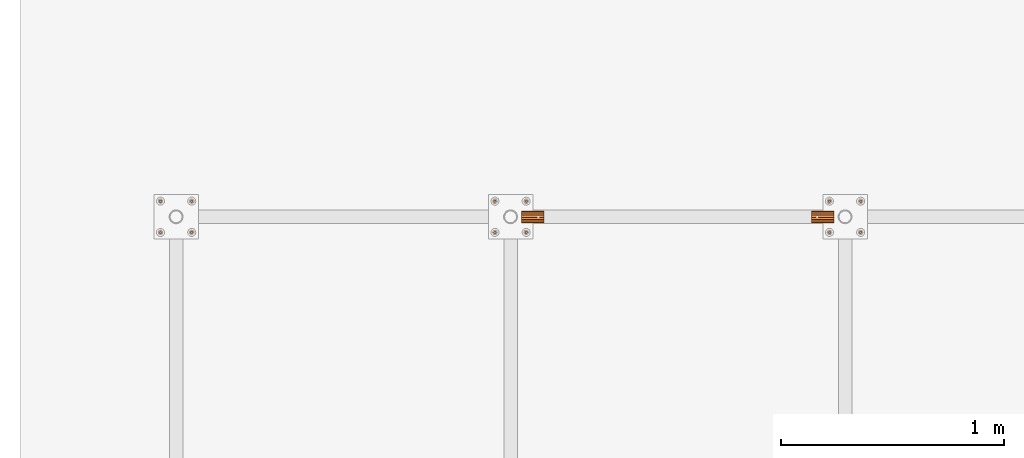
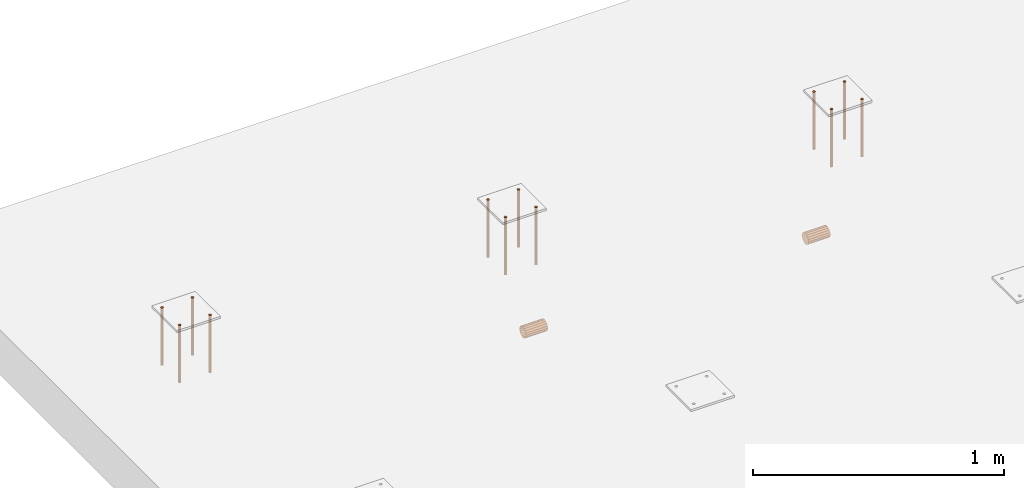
# One storey, part 15 of 30: 14 proxies.
"""IFC2X3 building model written with IfcOpenShell, lengths in millimetres."""

import ifcopenshell
import ifcopenshell.guid

model = None  # the IFC model being written
_history = None  # IfcOwnerHistory: only IFC2X3 demands one
_inside = {}  # id of a spatial element -> (the spatial element, [elements in it])
_under = {}  # id of a project, library or spatial element -> (it, [spatial elements below it])
_declared = {}  # id of a project -> (the project, [libraries it declares])
_typed = {}  # id of a type object -> (the type object, [elements of that type])
_made_of = {}  # id of a material, layer set ... -> (it, [elements and type objects made of it])


def new_model(schema):
    """Start an empty IFC model of exactly this schema.

    Asked for "IFC4X3", IfcOpenShell would pick the latest addendum, in which some entities
    have other attributes; the version numbers below select the first issue.
    IFC2X3 requires an IfcOwnerHistory on every rooted entity: one is made here for all.
    """
    global model, _history
    if schema == "IFC4X3":
        model = ifcopenshell.file(schema_version=(4, 3, 0, 0))
    else:
        model = ifcopenshell.file(schema=schema)
    _inside.clear()
    _under.clear()
    _declared.clear()
    _typed.clear()
    _made_of.clear()
    _history = None
    if model.schema == "IFC2X3":
        org = make("IfcOrganization", Name="unknown")
        user = make(
            "IfcPersonAndOrganization",
            ThePerson=make("IfcPerson", FamilyName="unknown"),
            TheOrganization=org,
        )
        app = make(
            "IfcApplication",
            ApplicationDeveloper=org,
            Version="unknown",
            ApplicationFullName="unknown",
            ApplicationIdentifier="unknown",
        )
        _history = make(
            "IfcOwnerHistory",
            OwningUser=user,
            OwningApplication=app,
            ChangeAction="ADDED",
            CreationDate=0,
        )
    return model


def make(cls, **values):
    """One entity of the class cls with the attributes given. An attribute that is None is left unset."""
    return model.create_entity(
        cls, **{name: value for name, value in values.items() if value is not None}
    )


def entity(cls, *values):
    """Any entity or typed value of the class cls, its attributes in the order of the schema. None: left unset."""
    e = model.create_entity(cls)
    for i, value in enumerate(values):
        if value is not None:
            e[i] = value
    return e


def rooted(cls, **values):
    """An entity with a GlobalId (a new one), such as an element, a storey or a relation."""
    return make(cls, GlobalId=ifcopenshell.guid.new(), OwnerHistory=_history, **values)


def si_unit(unit_type, name, prefix=None):
    """IfcSIUnit, for example si_unit("LENGTHUNIT", "METRE", prefix="MILLI")."""
    return make("IfcSIUnit", UnitType=unit_type, Prefix=prefix, Name=name)


def converted_unit(unit_type, name, factor, base, dimensions=None, offset=None):
    """IfcConversionBasedUnit, such as the inch: factor (a typed value) times the base unit."""
    return make(
        "IfcConversionBasedUnit"
        if offset is None
        else "IfcConversionBasedUnitWithOffset",
        ConversionOffset=offset,
        Dimensions=None
        if dimensions is None
        else entity("IfcDimensionalExponents", *dimensions),
        UnitType=unit_type,
        Name=name,
        ConversionFactor=make(
            "IfcMeasureWithUnit", ValueComponent=factor, UnitComponent=base
        ),
    )


def assignment(units):
    """IfcUnitAssignment: the units of a project."""
    return None if units is None else make("IfcUnitAssignment", Units=units)


def point(xyz):
    """IfcCartesianPoint."""
    return None if xyz is None else make("IfcCartesianPoint", Coordinates=xyz)


def direction(xyz):
    """IfcDirection."""
    return None if xyz is None else make("IfcDirection", DirectionRatios=xyz)


def frame(location, z_axis=None, x_axis=None):
    """IfcAxis2Placement3D, a coordinate frame: its origin and axes. An axis left out is left unset."""
    return make(
        "IfcAxis2Placement3D",
        Location=point(location),
        Axis=direction(z_axis),
        RefDirection=direction(x_axis),
    )


def origin_with_axes():
    """The frame at (0, 0, 0) with the z axis (0, 0, 1) and the x axis (1, 0, 0) written out."""
    return frame((0.0, 0.0, 0.0), z_axis=(0.0, 0.0, 1.0), x_axis=(1.0, 0.0, 0.0))


def place(relative_to, where):
    """IfcLocalPlacement: puts the frame where relative to a parent placement (None: the world)."""
    return make(
        "IfcLocalPlacement", PlacementRelTo=relative_to, RelativePlacement=where
    )


def context(
    kind, dimensions, precision=None, world=None, true_north=None, identifier=None
):
    """IfcGeometricRepresentationContext, for example the 3D "Model" context."""
    return make(
        "IfcGeometricRepresentationContext",
        ContextIdentifier=identifier,
        ContextType=kind,
        CoordinateSpaceDimension=dimensions,
        Precision=precision,
        WorldCoordinateSystem=world,
        TrueNorth=true_north,
    )


def project(units=None, contexts=None):
    """IfcProject with its units and contexts."""
    return rooted(
        "IfcProject",
        Name="project",
        RepresentationContexts=contexts,
        UnitsInContext=assignment(units),
    )


def spatial(cls, under=None, at=None, **own):
    """A site, building, storey or space (cls), placed at a placement, below another one or the project."""
    s = rooted(cls, ObjectPlacement=at, **own)
    if under is not None:
        _under.setdefault(under.id(), (under, []))[1].append(s)
    return s


def faces_of(points, faces, orient=None, outer=None):
    """IfcFace entities. A face is a list of loops; a loop is a list of indices into points, from 0.

    orient and outer hold one flag for each loop. By default every Orientation is true, the
    first loop of a face is its IfcFaceOuterBound and the others are IfcFaceBound.
    """
    made = []
    for i, loops in enumerate(faces):
        bounds = []
        for j, loop in enumerate(loops):
            is_outer = j == 0 if outer is None else outer[i][j]
            bounds.append(
                make(
                    "IfcFaceOuterBound" if is_outer else "IfcFaceBound",
                    Bound=make("IfcPolyLoop", Polygon=[points[k] for k in loop]),
                    Orientation=True if orient is None else orient[i][j],
                )
            )
        made.append(make("IfcFace", Bounds=bounds))
    return made


def faceted_brep(points, faces, orient=None, outer=None, voids=None):
    """IfcFacetedBrep: a solid bounded by flat faces; with voids (closed shells), ...WithVoids."""
    shared = [point(p) for p in points]
    hull = make("IfcClosedShell", CfsFaces=faces_of(shared, faces, orient, outer))
    if voids is None:
        return make("IfcFacetedBrep", Outer=hull)
    return make(
        "IfcFacetedBrepWithVoids",
        Outer=hull,
        Voids=[
            make(cls, CfsFaces=faces_of(shared, fs, o, b)) for cls, fs, o, b in voids
        ],
    )


def shape(context_of_items, identifier, shape_type, items):
    """IfcShapeRepresentation: the items that make up one representation, for example the "Body"."""
    return make(
        "IfcShapeRepresentation",
        ContextOfItems=context_of_items,
        RepresentationIdentifier=identifier,
        RepresentationType=shape_type,
        Items=items,
    )


def material(Name=None, Category=None):
    """IfcMaterial."""
    return make("IfcMaterial", Name=Name, Category=Category)


def made_of(thing, what):
    """Note that an element or type object is made of a material, layer set ...; save() writes the relation."""
    if what is not None:
        _made_of.setdefault(what.id(), (what, []))[1].append(thing)
    return thing


def element(
    cls,
    number,
    at=None,
    inside=None,
    cuts=None,
    type_object=None,
    material=None,
    context=None,
    identifier="Body",
    shape_type=None,
    held_by="IfcProductDefinitionShape",
    body=None,
    shapes=None,
    **own,
):
    """One element of the class cls, such as IfcWall. Its Tag is "e" and its number.

    at: its placement. inside: the storey or other place that contains it. cuts: it is an
    opening in that element (IfcRelVoidsElement). A single representation is given by context,
    identifier, shape_type and body (its items); several are given by shapes. held_by: the class
    of the entity that holds the representations. save() writes the other relations.
    """
    e = rooted(cls, Tag="e%d" % number, ObjectPlacement=at, **own)
    if body is not None:
        shapes = [shape(context, identifier, shape_type, body)]
    if shapes is not None:
        e.Representation = make(held_by, Representations=shapes)
    if inside is not None:
        _inside.setdefault(inside.id(), (inside, []))[1].append(e)
    if cuts is not None:
        rooted(
            "IfcRelVoidsElement", RelatingBuildingElement=cuts, RelatedOpeningElement=e
        )
    if type_object is not None:
        _typed.setdefault(type_object.id(), (type_object, []))[1].append(e)
    return made_of(e, material)


def aggregate(whole, parts):
    """IfcRelAggregates: a whole, such as a stair, and the parts it consists of."""
    return rooted("IfcRelAggregates", RelatingObject=whole, RelatedObjects=parts)


def save(model, path):
    """Write the relations noted so far, then the file.

    IfcRelAggregates (storeys below a building ...), IfcRelContainedInSpatialStructure (elements
    in a storey), IfcRelDefinesByType, IfcRelAssociatesMaterial and IfcRelDeclares: one each for
    every whole, place, type object, material and project.
    """
    for whole, parts in _under.values():
        aggregate(whole, parts)
    for where, things in _inside.values():
        rooted(
            "IfcRelContainedInSpatialStructure",
            RelatedElements=things,
            RelatingStructure=where,
        )
    for kind, things in _typed.values():
        rooted("IfcRelDefinesByType", RelatedObjects=things, RelatingType=kind)
    for what, things in _made_of.values():
        rooted("IfcRelAssociatesMaterial", RelatedObjects=things, RelatingMaterial=what)
    for by, libraries in _declared.values():
        rooted("IfcRelDeclares", RelatingContext=by, RelatedDefinitions=libraries)
    model.write(path)


model = new_model("IFC2X3")

# Units and contexts
model_context = context("Model", 3, precision=1e-09, world=origin_with_axes())
ifc_project = project(units=[si_unit("LENGTHUNIT", "METRE", prefix="MILLI"), si_unit("AREAUNIT", "SQUARE_METRE"), si_unit("VOLUMEUNIT", "CUBIC_METRE"), converted_unit("PLANEANGLEUNIT", "DEGREE", entity("IfcPlaneAngleMeasure", 0.01745329), si_unit("PLANEANGLEUNIT", "RADIAN"), dimensions=[0, 0, 0, 0, 0, 0, 0])], contexts=[model_context])

# Site, building, storey
site_placement = place(None, origin_with_axes())
site = spatial("IfcSite", under=ifc_project, at=site_placement, Name="M?nsinger Stra?e, 81477 M?nchen", CompositionType="ELEMENT")
building_placement = place(site_placement, origin_with_axes())
building = spatial("IfcBuilding", under=site, at=building_placement, Name="Struktur 1", CompositionType="ELEMENT")
storey_placement = place(building_placement, origin_with_axes())
storey = spatial("IfcBuildingStorey", under=building, at=storey_placement, Name="Default Storey", CompositionType="ELEMENT", Elevation=0.0)

# Proxies
ifc_material_1 = material(Name="Kein")
proxy_1_placement = place(None, origin_with_axes())
element("IfcBuildingElementProxy", 1, at=proxy_1_placement, inside=storey, material=ifc_material_1, ObjectType="-", context=model_context, shape_type="Brep", body=[
    faceted_brep([(1476.315117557, 4555.2632594, 6475.0), (1476.315117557, 4555.2632594, 6755.0), (1473.315117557, 4556.067106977, 6755.0), (1473.315117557, 4556.067106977, 6475.0), (1479.315117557, 4556.067106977, 6475.0), (1479.315117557, 4556.067106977, 6755.0), (1479.315117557, 4566.459411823, 6475.0), (1481.51126998, 4564.2632594, 6475.0), (1482.315117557, 4561.2632594, 6475.0), (1481.51126998, 4558.2632594, 6475.0), (1471.118965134, 4558.2632594, 6475.0), (1470.315117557, 4561.2632594, 6475.0), (1471.118965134, 4564.2632594, 6475.0), (1473.315117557, 4566.459411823, 6475.0), (1476.315117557, 4567.2632594, 6475.0), (1473.315117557, 4566.459411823, 6755.0), (1471.118965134, 4564.2632594, 6755.0), (1470.315117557, 4561.2632594, 6755.0), (1471.118965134, 4558.2632594, 6755.0), (1481.51126998, 4558.2632594, 6755.0), (1482.315117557, 4561.2632594, 6755.0), (1481.51126998, 4564.2632594, 6755.0), (1479.315117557, 4566.459411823, 6755.0), (1476.315117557, 4567.2632594, 6755.0)], [[[0, 1, 2, 3]], [[1, 0, 4, 5]], [[6, 7, 8, 9, 4, 0, 3, 10, 11, 12, 13, 14]], [[15, 16, 17, 18, 2, 1, 5, 19, 20, 21, 22, 23]], [[3, 2, 18, 10]], [[5, 4, 9, 19]], [[17, 11, 10, 18]], [[16, 12, 11, 17]], [[19, 9, 8, 20]], [[13, 15, 23, 14]], [[12, 16, 15, 13]], [[14, 23, 22, 6]], [[20, 8, 7, 21]], [[6, 22, 21, 7]]]),
])
proxy_2_placement = place(None, origin_with_axes())
element("IfcBuildingElementProxy", 2, at=proxy_2_placement, inside=storey, material=ifc_material_1, ObjectType="-", context=model_context, shape_type="Brep", body=[
    faceted_brep([(1336.315117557, 4555.2632594, 6475.0), (1336.315117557, 4555.2632594, 6755.0), (1333.315117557, 4556.067106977, 6755.0), (1333.315117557, 4556.067106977, 6475.0), (1339.315117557, 4556.067106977, 6475.0), (1339.315117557, 4556.067106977, 6755.0), (1339.315117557, 4566.459411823, 6475.0), (1341.51126998, 4564.2632594, 6475.0), (1342.315117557, 4561.2632594, 6475.0), (1341.51126998, 4558.2632594, 6475.0), (1331.118965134, 4558.2632594, 6475.0), (1330.315117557, 4561.2632594, 6475.0), (1331.118965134, 4564.2632594, 6475.0), (1333.315117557, 4566.459411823, 6475.0), (1336.315117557, 4567.2632594, 6475.0), (1333.315117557, 4566.459411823, 6755.0), (1331.118965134, 4564.2632594, 6755.0), (1330.315117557, 4561.2632594, 6755.0), (1331.118965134, 4558.2632594, 6755.0), (1341.51126998, 4558.2632594, 6755.0), (1342.315117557, 4561.2632594, 6755.0), (1341.51126998, 4564.2632594, 6755.0), (1339.315117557, 4566.459411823, 6755.0), (1336.315117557, 4567.2632594, 6755.0)], [[[0, 1, 2, 3]], [[1, 0, 4, 5]], [[6, 7, 8, 9, 4, 0, 3, 10, 11, 12, 13, 14]], [[15, 16, 17, 18, 2, 1, 5, 19, 20, 21, 22, 23]], [[3, 2, 18, 10]], [[5, 4, 9, 19]], [[17, 11, 10, 18]], [[16, 12, 11, 17]], [[19, 9, 8, 20]], [[13, 15, 23, 14]], [[12, 16, 15, 13]], [[14, 23, 22, 6]], [[20, 8, 7, 21]], [[6, 22, 21, 7]]]),
])
proxy_3_placement = place(None, origin_with_axes())
element("IfcBuildingElementProxy", 3, at=proxy_3_placement, inside=storey, material=ifc_material_1, ObjectType="-", context=model_context, shape_type="Brep", body=[
    faceted_brep([(1476.315117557, 4415.2632594, 6475.0), (1476.315117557, 4415.2632594, 6755.0), (1473.315117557, 4416.067106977, 6755.0), (1473.315117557, 4416.067106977, 6475.0), (1479.315117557, 4416.067106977, 6475.0), (1479.315117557, 4416.067106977, 6755.0), (1479.315117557, 4426.459411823, 6475.0), (1481.51126998, 4424.2632594, 6475.0), (1482.315117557, 4421.2632594, 6475.0), (1481.51126998, 4418.2632594, 6475.0), (1471.118965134, 4418.2632594, 6475.0), (1470.315117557, 4421.2632594, 6475.0), (1471.118965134, 4424.2632594, 6475.0), (1473.315117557, 4426.459411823, 6475.0), (1476.315117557, 4427.2632594, 6475.0), (1473.315117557, 4426.459411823, 6755.0), (1471.118965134, 4424.2632594, 6755.0), (1470.315117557, 4421.2632594, 6755.0), (1471.118965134, 4418.2632594, 6755.0), (1481.51126998, 4418.2632594, 6755.0), (1482.315117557, 4421.2632594, 6755.0), (1481.51126998, 4424.2632594, 6755.0), (1479.315117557, 4426.459411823, 6755.0), (1476.315117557, 4427.2632594, 6755.0)], [[[0, 1, 2, 3]], [[1, 0, 4, 5]], [[6, 7, 8, 9, 4, 0, 3, 10, 11, 12, 13, 14]], [[15, 16, 17, 18, 2, 1, 5, 19, 20, 21, 22, 23]], [[3, 2, 18, 10]], [[5, 4, 9, 19]], [[17, 11, 10, 18]], [[16, 12, 11, 17]], [[19, 9, 8, 20]], [[13, 15, 23, 14]], [[12, 16, 15, 13]], [[14, 23, 22, 6]], [[20, 8, 7, 21]], [[6, 22, 21, 7]]]),
])
proxy_4_placement = place(None, origin_with_axes())
element("IfcBuildingElementProxy", 4, at=proxy_4_placement, inside=storey, material=ifc_material_1, ObjectType="-", context=model_context, shape_type="Brep", body=[
    faceted_brep([(1336.315117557, 4415.2632594, 6475.0), (1336.315117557, 4415.2632594, 6755.0), (1333.315117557, 4416.067106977, 6755.0), (1333.315117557, 4416.067106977, 6475.0), (1339.315117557, 4416.067106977, 6475.0), (1339.315117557, 4416.067106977, 6755.0), (1339.315117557, 4426.459411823, 6475.0), (1341.51126998, 4424.2632594, 6475.0), (1342.315117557, 4421.2632594, 6475.0), (1341.51126998, 4418.2632594, 6475.0), (1331.118965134, 4418.2632594, 6475.0), (1330.315117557, 4421.2632594, 6475.0), (1331.118965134, 4424.2632594, 6475.0), (1333.315117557, 4426.459411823, 6475.0), (1336.315117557, 4427.2632594, 6475.0), (1333.315117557, 4426.459411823, 6755.0), (1331.118965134, 4424.2632594, 6755.0), (1330.315117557, 4421.2632594, 6755.0), (1331.118965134, 4418.2632594, 6755.0), (1341.51126998, 4418.2632594, 6755.0), (1342.315117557, 4421.2632594, 6755.0), (1341.51126998, 4424.2632594, 6755.0), (1339.315117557, 4426.459411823, 6755.0), (1336.315117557, 4427.2632594, 6755.0)], [[[0, 1, 2, 3]], [[1, 0, 4, 5]], [[6, 7, 8, 9, 4, 0, 3, 10, 11, 12, 13, 14]], [[15, 16, 17, 18, 2, 1, 5, 19, 20, 21, 22, 23]], [[3, 2, 18, 10]], [[5, 4, 9, 19]], [[17, 11, 10, 18]], [[16, 12, 11, 17]], [[19, 9, 8, 20]], [[13, 15, 23, 14]], [[12, 16, 15, 13]], [[14, 23, 22, 6]], [[20, 8, 7, 21]], [[6, 22, 21, 7]]]),
])
ifc_material_2 = material(Name="S235JR")
proxy_5_placement = place(None, origin_with_axes())
element("IfcBuildingElementProxy", 5, at=proxy_5_placement, inside=storey, material=ifc_material_2, ObjectType="-", context=model_context, shape_type="Brep", body=[
    faceted_brep([(4256.315117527, 4517.557789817, 6105.084700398), (4256.315117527, 4514.006567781, 6095.917939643), (4256.315117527, 4507.383735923, 6088.65303917), (4256.315117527, 4498.583744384, 6084.271164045), (4256.315117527, 4488.795080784, 6083.364110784), (4256.315117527, 4479.339758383, 6086.054381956), (4256.315117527, 4471.494770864, 6091.978641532), (4256.315117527, 4466.319627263, 6100.336785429), (4256.315117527, 4464.5132594, 6110.0), (4256.315117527, 4466.319627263, 6119.663214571), (4256.315117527, 4471.494770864, 6128.021358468), (4256.315117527, 4479.339758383, 6133.945618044), (4256.315117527, 4488.795080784, 6136.635889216), (4256.315117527, 4498.583744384, 6135.728835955), (4256.315117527, 4507.383735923, 6131.34696083), (4256.315117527, 4514.006567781, 6124.082060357), (4256.315117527, 4517.557789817, 6114.915299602), (4256.315117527, 4516.2632594, 6110.0), (4356.315117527, 4516.2632594, 6110.0), (4356.315117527, 4514.360247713, 6119.567085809), (4256.315117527, 4514.360247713, 6119.567085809), (4356.315117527, 4517.557789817, 6114.915299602), (4356.315117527, 4517.557789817, 6105.084700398), (4256.315117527, 4514.360247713, 6100.432914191), (4356.315117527, 4514.360247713, 6100.432914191), (4356.315117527, 4514.006567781, 6124.082060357), (4356.315117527, 4507.383735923, 6131.34696083), (4356.315117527, 4498.583744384, 6135.728835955), (4356.315117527, 4488.795080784, 6136.635889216), (4356.315117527, 4479.339758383, 6133.945618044), (4356.315117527, 4471.494770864, 6128.021358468), (4356.315117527, 4466.319627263, 6119.663214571), (4356.315117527, 4464.5132594, 6110.0), (4356.315117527, 4466.319627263, 6100.336785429), (4356.315117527, 4471.494770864, 6091.978641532), (4356.315117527, 4479.339758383, 6086.054381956), (4356.315117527, 4488.795080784, 6083.364110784), (4356.315117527, 4498.583744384, 6084.271164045), (4356.315117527, 4507.383735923, 6088.65303917), (4356.315117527, 4514.006567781, 6095.917939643), (4356.315117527, 4508.94092893, 6092.32233047), (4356.315117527, 4500.830345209, 6086.903011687), (4356.315117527, 4491.2632594, 6085.0), (4356.315117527, 4481.696173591, 6086.903011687), (4356.315117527, 4473.58558987, 6092.32233047), (4356.315117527, 4468.166271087, 6100.432914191), (4356.315117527, 4466.2632594, 6110.0), (4356.315117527, 4468.166271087, 6119.567085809), (4356.315117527, 4473.58558987, 6127.67766953), (4356.315117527, 4481.696173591, 6133.096988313), (4356.315117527, 4491.2632594, 6135.0), (4356.315117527, 4500.830345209, 6133.096988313), (4356.315117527, 4508.94092893, 6127.67766953), (4256.315117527, 4508.94092893, 6127.67766953), (4256.315117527, 4508.94092893, 6092.32233047), (4256.315117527, 4500.830345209, 6133.096988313), (4256.315117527, 4500.830345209, 6086.903011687), (4256.315117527, 4491.2632594, 6135.0), (4256.315117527, 4491.2632594, 6085.0), (4256.315117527, 4481.696173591, 6133.096988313), (4256.315117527, 4481.696173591, 6086.903011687), (4256.315117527, 4473.58558987, 6127.67766953), (4256.315117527, 4473.58558987, 6092.32233047), (4256.315117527, 4468.166271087, 6119.567085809), (4256.315117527, 4468.166271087, 6100.432914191), (4256.315117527, 4466.2632594, 6110.0)], [[[0, 1, 2, 3, 4, 5, 6, 7, 8, 9, 10, 11, 12, 13, 14, 15, 16]], [[17, 18, 19, 20]], [[0, 16, 21, 22]], [[18, 17, 23, 24]], [[22, 21, 25, 26, 27, 28, 29, 30, 31, 32, 33, 34, 35, 36, 37, 38, 39], [24, 40, 41, 42, 43, 44, 45, 46, 47, 48, 49, 50, 51, 52, 19, 18]], [[25, 21, 16, 15]], [[1, 0, 22, 39]], [[20, 19, 52, 53]], [[24, 23, 54, 40]], [[26, 25, 15, 14]], [[2, 1, 39, 38]], [[53, 52, 51, 55]], [[40, 54, 56, 41]], [[27, 26, 14, 13]], [[3, 2, 38, 37]], [[55, 51, 50, 57]], [[41, 56, 58, 42]], [[28, 27, 13, 12]], [[4, 3, 37, 36]], [[57, 50, 49, 59]], [[42, 58, 60, 43]], [[29, 28, 12, 11]], [[5, 4, 36, 35]], [[59, 49, 48, 61]], [[43, 60, 62, 44]], [[30, 29, 11, 10]], [[6, 5, 35, 34]], [[61, 48, 47, 63]], [[44, 62, 64, 45]], [[31, 30, 10, 9]], [[7, 6, 34, 33]], [[63, 47, 46, 65]], [[45, 64, 65, 46]], [[32, 31, 9, 8]], [[8, 7, 33, 32]]]),
])
proxy_6_placement = place(None, origin_with_axes())
element("IfcBuildingElementProxy", 6, at=proxy_6_placement, inside=storey, material=ifc_material_2, ObjectType="-", context=model_context, shape_type="Brep", body=[
    faceted_brep([(3056.315117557, 4514.006567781, 6095.917939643), (3056.315117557, 4517.557789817, 6105.084700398), (3056.315117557, 4517.557789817, 6114.915299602), (3056.315117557, 4514.006567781, 6124.082060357), (3056.315117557, 4507.383735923, 6131.34696083), (3056.315117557, 4498.583744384, 6135.728835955), (3056.315117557, 4488.795080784, 6136.635889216), (3056.315117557, 4479.339758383, 6133.945618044), (3056.315117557, 4471.494770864, 6128.021358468), (3056.315117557, 4466.319627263, 6119.663214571), (3056.315117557, 4464.5132594, 6110.0), (3056.315117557, 4466.319627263, 6100.336785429), (3056.315117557, 4471.494770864, 6091.978641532), (3056.315117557, 4479.339758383, 6086.054381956), (3056.315117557, 4488.795080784, 6083.364110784), (3056.315117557, 4498.583744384, 6084.271164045), (3056.315117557, 4507.383735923, 6088.65303917), (3056.315117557, 4516.2632594, 6110.0), (3056.315117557, 4514.360247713, 6100.432914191), (3056.315117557, 4508.94092893, 6092.32233047), (3056.315117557, 4500.830345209, 6086.903011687), (3056.315117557, 4491.2632594, 6085.0), (3056.315117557, 4481.696173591, 6086.903011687), (3056.315117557, 4473.58558987, 6092.32233047), (3056.315117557, 4468.166271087, 6100.432914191), (3056.315117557, 4466.2632594, 6110.0), (3056.315117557, 4468.166271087, 6119.567085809), (3056.315117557, 4473.58558987, 6127.67766953), (3056.315117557, 4481.696173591, 6133.096988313), (3056.315117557, 4491.2632594, 6135.0), (3056.315117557, 4500.830345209, 6133.096988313), (3056.315117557, 4508.94092893, 6127.67766953), (3056.315117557, 4514.360247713, 6119.567085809), (2956.315117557, 4516.2632594, 6110.0), (2956.315117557, 4514.360247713, 6119.567085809), (2956.315117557, 4517.557789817, 6105.084700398), (2956.315117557, 4517.557789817, 6114.915299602), (2956.315117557, 4514.360247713, 6100.432914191), (2956.315117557, 4514.006567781, 6095.917939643), (2956.315117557, 4507.383735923, 6088.65303917), (2956.315117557, 4498.583744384, 6084.271164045), (2956.315117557, 4488.795080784, 6083.364110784), (2956.315117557, 4479.339758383, 6086.054381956), (2956.315117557, 4471.494770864, 6091.978641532), (2956.315117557, 4466.319627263, 6100.336785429), (2956.315117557, 4464.5132594, 6110.0), (2956.315117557, 4466.319627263, 6119.663214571), (2956.315117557, 4471.494770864, 6128.021358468), (2956.315117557, 4479.339758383, 6133.945618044), (2956.315117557, 4488.795080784, 6136.635889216), (2956.315117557, 4498.583744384, 6135.728835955), (2956.315117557, 4507.383735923, 6131.34696083), (2956.315117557, 4514.006567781, 6124.082060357), (2956.315117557, 4508.94092893, 6092.32233047), (2956.315117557, 4508.94092893, 6127.67766953), (2956.315117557, 4500.830345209, 6133.096988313), (2956.315117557, 4491.2632594, 6135.0), (2956.315117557, 4481.696173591, 6133.096988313), (2956.315117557, 4473.58558987, 6127.67766953), (2956.315117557, 4468.166271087, 6119.567085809), (2956.315117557, 4466.2632594, 6110.0), (2956.315117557, 4468.166271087, 6100.432914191), (2956.315117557, 4473.58558987, 6092.32233047), (2956.315117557, 4481.696173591, 6086.903011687), (2956.315117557, 4491.2632594, 6085.0), (2956.315117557, 4500.830345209, 6086.903011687)], [[[0, 1, 2, 3, 4, 5, 6, 7, 8, 9, 10, 11, 12, 13, 14, 15, 16], [17, 18, 19, 20, 21, 22, 23, 24, 25, 26, 27, 28, 29, 30, 31, 32]], [[33, 17, 32, 34]], [[2, 1, 35, 36]], [[17, 33, 37, 18]], [[35, 38, 39, 40, 41, 42, 43, 44, 45, 46, 47, 48, 49, 50, 51, 52, 36], [53, 37, 33, 34, 54, 55, 56, 57, 58, 59, 60, 61, 62, 63, 64, 65]], [[36, 52, 3, 2]], [[1, 0, 38, 35]], [[34, 32, 31, 54]], [[18, 37, 53, 19]], [[52, 51, 4, 3]], [[0, 16, 39, 38]], [[54, 31, 30, 55]], [[19, 53, 65, 20]], [[51, 50, 5, 4]], [[16, 15, 40, 39]], [[55, 30, 29, 56]], [[20, 65, 64, 21]], [[50, 49, 6, 5]], [[15, 14, 41, 40]], [[56, 29, 28, 57]], [[21, 64, 63, 22]], [[49, 48, 7, 6]], [[14, 13, 42, 41]], [[57, 28, 27, 58]], [[22, 63, 62, 23]], [[48, 47, 8, 7]], [[13, 12, 43, 42]], [[58, 27, 26, 59]], [[23, 62, 61, 24]], [[47, 46, 9, 8]], [[12, 11, 44, 43]], [[59, 26, 25, 60]], [[24, 61, 60, 25]], [[46, 45, 10, 9]], [[11, 10, 45, 44]]]),
])
proxy_7_placement = place(None, origin_with_axes())
element("IfcBuildingElementProxy", 7, at=proxy_7_placement, inside=storey, material=ifc_material_1, ObjectType="-", context=model_context, shape_type="Brep", body=[
    faceted_brep([(2982.315117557, 4421.2632594, 6755.0), (2982.315117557, 4421.2632594, 6475.0), (2981.51126998, 4424.2632594, 6475.0), (2981.51126998, 4424.2632594, 6755.0), (2981.51126998, 4418.2632594, 6755.0), (2981.51126998, 4418.2632594, 6475.0), (2973.315117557, 4416.067106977, 6475.0), (2971.118965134, 4418.2632594, 6475.0), (2970.315117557, 4421.2632594, 6475.0), (2971.118965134, 4424.2632594, 6475.0), (2973.315117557, 4426.459411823, 6475.0), (2976.315117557, 4427.2632594, 6475.0), (2979.315117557, 4426.459411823, 6475.0), (2979.315117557, 4416.067106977, 6475.0), (2976.315117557, 4415.2632594, 6475.0), (2973.315117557, 4426.459411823, 6755.0), (2971.118965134, 4424.2632594, 6755.0), (2970.315117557, 4421.2632594, 6755.0), (2971.118965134, 4418.2632594, 6755.0), (2973.315117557, 4416.067106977, 6755.0), (2976.315117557, 4415.2632594, 6755.0), (2979.315117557, 4416.067106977, 6755.0), (2979.315117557, 4426.459411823, 6755.0), (2976.315117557, 4427.2632594, 6755.0)], [[[0, 1, 2, 3]], [[1, 0, 4, 5]], [[6, 7, 8, 9, 10, 11, 12, 2, 1, 5, 13, 14]], [[15, 16, 17, 18, 19, 20, 21, 4, 0, 3, 22, 23]], [[3, 2, 12, 22]], [[5, 4, 21, 13]], [[11, 23, 22, 12]], [[10, 15, 23, 11]], [[13, 21, 20, 14]], [[16, 9, 8, 17]], [[15, 10, 9, 16]], [[17, 8, 7, 18]], [[14, 20, 19, 6]], [[18, 7, 6, 19]]]),
])
proxy_8_placement = place(None, origin_with_axes())
element("IfcBuildingElementProxy", 8, at=proxy_8_placement, inside=storey, material=ifc_material_1, ObjectType="-", context=model_context, shape_type="Brep", body=[
    faceted_brep([(2982.315117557, 4561.2632594, 6755.0), (2982.315117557, 4561.2632594, 6475.0), (2981.51126998, 4564.2632594, 6475.0), (2981.51126998, 4564.2632594, 6755.0), (2981.51126998, 4558.2632594, 6755.0), (2981.51126998, 4558.2632594, 6475.0), (2973.315117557, 4556.067106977, 6475.0), (2971.118965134, 4558.2632594, 6475.0), (2970.315117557, 4561.2632594, 6475.0), (2971.118965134, 4564.2632594, 6475.0), (2973.315117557, 4566.459411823, 6475.0), (2976.315117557, 4567.2632594, 6475.0), (2979.315117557, 4566.459411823, 6475.0), (2979.315117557, 4556.067106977, 6475.0), (2976.315117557, 4555.2632594, 6475.0), (2973.315117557, 4566.459411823, 6755.0), (2971.118965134, 4564.2632594, 6755.0), (2970.315117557, 4561.2632594, 6755.0), (2971.118965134, 4558.2632594, 6755.0), (2973.315117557, 4556.067106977, 6755.0), (2976.315117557, 4555.2632594, 6755.0), (2979.315117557, 4556.067106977, 6755.0), (2979.315117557, 4566.459411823, 6755.0), (2976.315117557, 4567.2632594, 6755.0)], [[[0, 1, 2, 3]], [[1, 0, 4, 5]], [[6, 7, 8, 9, 10, 11, 12, 2, 1, 5, 13, 14]], [[15, 16, 17, 18, 19, 20, 21, 4, 0, 3, 22, 23]], [[3, 2, 12, 22]], [[5, 4, 21, 13]], [[11, 23, 22, 12]], [[10, 15, 23, 11]], [[13, 21, 20, 14]], [[16, 9, 8, 17]], [[15, 10, 9, 16]], [[17, 8, 7, 18]], [[14, 20, 19, 6]], [[18, 7, 6, 19]]]),
])
proxy_9_placement = place(None, origin_with_axes())
element("IfcBuildingElementProxy", 9, at=proxy_9_placement, inside=storey, material=ifc_material_1, ObjectType="-", context=model_context, shape_type="Brep", body=[
    faceted_brep([(2842.315117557, 4421.2632594, 6755.0), (2842.315117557, 4421.2632594, 6475.0), (2841.51126998, 4424.2632594, 6475.0), (2841.51126998, 4424.2632594, 6755.0), (2841.51126998, 4418.2632594, 6755.0), (2841.51126998, 4418.2632594, 6475.0), (2833.315117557, 4416.067106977, 6475.0), (2831.118965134, 4418.2632594, 6475.0), (2830.315117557, 4421.2632594, 6475.0), (2831.118965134, 4424.2632594, 6475.0), (2833.315117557, 4426.459411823, 6475.0), (2836.315117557, 4427.2632594, 6475.0), (2839.315117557, 4426.459411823, 6475.0), (2839.315117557, 4416.067106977, 6475.0), (2836.315117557, 4415.2632594, 6475.0), (2833.315117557, 4426.459411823, 6755.0), (2831.118965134, 4424.2632594, 6755.0), (2830.315117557, 4421.2632594, 6755.0), (2831.118965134, 4418.2632594, 6755.0), (2833.315117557, 4416.067106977, 6755.0), (2836.315117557, 4415.2632594, 6755.0), (2839.315117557, 4416.067106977, 6755.0), (2839.315117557, 4426.459411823, 6755.0), (2836.315117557, 4427.2632594, 6755.0)], [[[0, 1, 2, 3]], [[1, 0, 4, 5]], [[6, 7, 8, 9, 10, 11, 12, 2, 1, 5, 13, 14]], [[15, 16, 17, 18, 19, 20, 21, 4, 0, 3, 22, 23]], [[3, 2, 12, 22]], [[5, 4, 21, 13]], [[11, 23, 22, 12]], [[10, 15, 23, 11]], [[13, 21, 20, 14]], [[16, 9, 8, 17]], [[15, 10, 9, 16]], [[17, 8, 7, 18]], [[14, 20, 19, 6]], [[18, 7, 6, 19]]]),
])
proxy_10_placement = place(None, origin_with_axes())
element("IfcBuildingElementProxy", 10, at=proxy_10_placement, inside=storey, material=ifc_material_1, ObjectType="-", context=model_context, shape_type="Brep", body=[
    faceted_brep([(2842.315117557, 4561.2632594, 6755.0), (2842.315117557, 4561.2632594, 6475.0), (2841.51126998, 4564.2632594, 6475.0), (2841.51126998, 4564.2632594, 6755.0), (2841.51126998, 4558.2632594, 6755.0), (2841.51126998, 4558.2632594, 6475.0), (2833.315117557, 4556.067106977, 6475.0), (2831.118965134, 4558.2632594, 6475.0), (2830.315117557, 4561.2632594, 6475.0), (2831.118965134, 4564.2632594, 6475.0), (2833.315117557, 4566.459411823, 6475.0), (2836.315117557, 4567.2632594, 6475.0), (2839.315117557, 4566.459411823, 6475.0), (2839.315117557, 4556.067106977, 6475.0), (2836.315117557, 4555.2632594, 6475.0), (2833.315117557, 4566.459411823, 6755.0), (2831.118965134, 4564.2632594, 6755.0), (2830.315117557, 4561.2632594, 6755.0), (2831.118965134, 4558.2632594, 6755.0), (2833.315117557, 4556.067106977, 6755.0), (2836.315117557, 4555.2632594, 6755.0), (2839.315117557, 4556.067106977, 6755.0), (2839.315117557, 4566.459411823, 6755.0), (2836.315117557, 4567.2632594, 6755.0)], [[[0, 1, 2, 3]], [[1, 0, 4, 5]], [[6, 7, 8, 9, 10, 11, 12, 2, 1, 5, 13, 14]], [[15, 16, 17, 18, 19, 20, 21, 4, 0, 3, 22, 23]], [[3, 2, 12, 22]], [[5, 4, 21, 13]], [[11, 23, 22, 12]], [[10, 15, 23, 11]], [[13, 21, 20, 14]], [[16, 9, 8, 17]], [[15, 10, 9, 16]], [[17, 8, 7, 18]], [[14, 20, 19, 6]], [[18, 7, 6, 19]]]),
])
proxy_11_placement = place(None, origin_with_axes())
element("IfcBuildingElementProxy", 11, at=proxy_11_placement, inside=storey, material=ifc_material_1, ObjectType="-", context=model_context, shape_type="Brep", body=[
    faceted_brep([(4482.315117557, 4561.2632594, 6755.0), (4482.315117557, 4561.2632594, 6475.0), (4481.51126998, 4564.2632594, 6475.0), (4481.51126998, 4564.2632594, 6755.0), (4481.51126998, 4558.2632594, 6755.0), (4481.51126998, 4558.2632594, 6475.0), (4473.315117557, 4556.067106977, 6475.0), (4471.118965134, 4558.2632594, 6475.0), (4470.315117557, 4561.2632594, 6475.0), (4471.118965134, 4564.2632594, 6475.0), (4473.315117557, 4566.459411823, 6475.0), (4476.315117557, 4567.2632594, 6475.0), (4479.315117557, 4566.459411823, 6475.0), (4479.315117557, 4556.067106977, 6475.0), (4476.315117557, 4555.2632594, 6475.0), (4473.315117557, 4566.459411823, 6755.0), (4471.118965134, 4564.2632594, 6755.0), (4470.315117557, 4561.2632594, 6755.0), (4471.118965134, 4558.2632594, 6755.0), (4473.315117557, 4556.067106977, 6755.0), (4476.315117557, 4555.2632594, 6755.0), (4479.315117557, 4556.067106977, 6755.0), (4479.315117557, 4566.459411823, 6755.0), (4476.315117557, 4567.2632594, 6755.0)], [[[0, 1, 2, 3]], [[1, 0, 4, 5]], [[6, 7, 8, 9, 10, 11, 12, 2, 1, 5, 13, 14]], [[15, 16, 17, 18, 19, 20, 21, 4, 0, 3, 22, 23]], [[3, 2, 12, 22]], [[5, 4, 21, 13]], [[11, 23, 22, 12]], [[10, 15, 23, 11]], [[13, 21, 20, 14]], [[16, 9, 8, 17]], [[15, 10, 9, 16]], [[17, 8, 7, 18]], [[14, 20, 19, 6]], [[18, 7, 6, 19]]]),
])
proxy_12_placement = place(None, origin_with_axes())
element("IfcBuildingElementProxy", 12, at=proxy_12_placement, inside=storey, material=ifc_material_1, ObjectType="-", context=model_context, shape_type="Brep", body=[
    faceted_brep([(4482.315117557, 4421.2632594, 6755.0), (4482.315117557, 4421.2632594, 6475.0), (4481.51126998, 4424.2632594, 6475.0), (4481.51126998, 4424.2632594, 6755.0), (4481.51126998, 4418.2632594, 6755.0), (4481.51126998, 4418.2632594, 6475.0), (4473.315117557, 4416.067106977, 6475.0), (4471.118965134, 4418.2632594, 6475.0), (4470.315117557, 4421.2632594, 6475.0), (4471.118965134, 4424.2632594, 6475.0), (4473.315117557, 4426.459411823, 6475.0), (4476.315117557, 4427.2632594, 6475.0), (4479.315117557, 4426.459411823, 6475.0), (4479.315117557, 4416.067106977, 6475.0), (4476.315117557, 4415.2632594, 6475.0), (4473.315117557, 4426.459411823, 6755.0), (4471.118965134, 4424.2632594, 6755.0), (4470.315117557, 4421.2632594, 6755.0), (4471.118965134, 4418.2632594, 6755.0), (4473.315117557, 4416.067106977, 6755.0), (4476.315117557, 4415.2632594, 6755.0), (4479.315117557, 4416.067106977, 6755.0), (4479.315117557, 4426.459411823, 6755.0), (4476.315117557, 4427.2632594, 6755.0)], [[[0, 1, 2, 3]], [[1, 0, 4, 5]], [[6, 7, 8, 9, 10, 11, 12, 2, 1, 5, 13, 14]], [[15, 16, 17, 18, 19, 20, 21, 4, 0, 3, 22, 23]], [[3, 2, 12, 22]], [[5, 4, 21, 13]], [[11, 23, 22, 12]], [[10, 15, 23, 11]], [[13, 21, 20, 14]], [[16, 9, 8, 17]], [[15, 10, 9, 16]], [[17, 8, 7, 18]], [[14, 20, 19, 6]], [[18, 7, 6, 19]]]),
])
proxy_13_placement = place(None, origin_with_axes())
element("IfcBuildingElementProxy", 13, at=proxy_13_placement, inside=storey, material=ifc_material_1, ObjectType="-", context=model_context, shape_type="Brep", body=[
    faceted_brep([(4342.315117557, 4561.2632594, 6755.0), (4342.315117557, 4561.2632594, 6475.0), (4341.51126998, 4564.2632594, 6475.0), (4341.51126998, 4564.2632594, 6755.0), (4341.51126998, 4558.2632594, 6755.0), (4341.51126998, 4558.2632594, 6475.0), (4333.315117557, 4556.067106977, 6475.0), (4331.118965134, 4558.2632594, 6475.0), (4330.315117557, 4561.2632594, 6475.0), (4331.118965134, 4564.2632594, 6475.0), (4333.315117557, 4566.459411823, 6475.0), (4336.315117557, 4567.2632594, 6475.0), (4339.315117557, 4566.459411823, 6475.0), (4339.315117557, 4556.067106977, 6475.0), (4336.315117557, 4555.2632594, 6475.0), (4333.315117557, 4566.459411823, 6755.0), (4331.118965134, 4564.2632594, 6755.0), (4330.315117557, 4561.2632594, 6755.0), (4331.118965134, 4558.2632594, 6755.0), (4333.315117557, 4556.067106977, 6755.0), (4336.315117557, 4555.2632594, 6755.0), (4339.315117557, 4556.067106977, 6755.0), (4339.315117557, 4566.459411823, 6755.0), (4336.315117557, 4567.2632594, 6755.0)], [[[0, 1, 2, 3]], [[1, 0, 4, 5]], [[6, 7, 8, 9, 10, 11, 12, 2, 1, 5, 13, 14]], [[15, 16, 17, 18, 19, 20, 21, 4, 0, 3, 22, 23]], [[3, 2, 12, 22]], [[5, 4, 21, 13]], [[11, 23, 22, 12]], [[10, 15, 23, 11]], [[13, 21, 20, 14]], [[16, 9, 8, 17]], [[15, 10, 9, 16]], [[17, 8, 7, 18]], [[14, 20, 19, 6]], [[18, 7, 6, 19]]]),
])
proxy_14_placement = place(None, origin_with_axes())
element("IfcBuildingElementProxy", 14, at=proxy_14_placement, inside=storey, material=ifc_material_1, ObjectType="-", context=model_context, shape_type="Brep", body=[
    faceted_brep([(4342.315117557, 4421.2632594, 6755.0), (4342.315117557, 4421.2632594, 6475.0), (4341.51126998, 4424.2632594, 6475.0), (4341.51126998, 4424.2632594, 6755.0), (4341.51126998, 4418.2632594, 6755.0), (4341.51126998, 4418.2632594, 6475.0), (4333.315117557, 4416.067106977, 6475.0), (4331.118965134, 4418.2632594, 6475.0), (4330.315117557, 4421.2632594, 6475.0), (4331.118965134, 4424.2632594, 6475.0), (4333.315117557, 4426.459411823, 6475.0), (4336.315117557, 4427.2632594, 6475.0), (4339.315117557, 4426.459411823, 6475.0), (4339.315117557, 4416.067106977, 6475.0), (4336.315117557, 4415.2632594, 6475.0), (4333.315117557, 4426.459411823, 6755.0), (4331.118965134, 4424.2632594, 6755.0), (4330.315117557, 4421.2632594, 6755.0), (4331.118965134, 4418.2632594, 6755.0), (4333.315117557, 4416.067106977, 6755.0), (4336.315117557, 4415.2632594, 6755.0), (4339.315117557, 4416.067106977, 6755.0), (4339.315117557, 4426.459411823, 6755.0), (4336.315117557, 4427.2632594, 6755.0)], [[[0, 1, 2, 3]], [[1, 0, 4, 5]], [[6, 7, 8, 9, 10, 11, 12, 2, 1, 5, 13, 14]], [[15, 16, 17, 18, 19, 20, 21, 4, 0, 3, 22, 23]], [[3, 2, 12, 22]], [[5, 4, 21, 13]], [[11, 23, 22, 12]], [[10, 15, 23, 11]], [[13, 21, 20, 14]], [[16, 9, 8, 17]], [[15, 10, 9, 16]], [[17, 8, 7, 18]], [[14, 20, 19, 6]], [[18, 7, 6, 19]]]),
])

save(model, "model.ifc")
